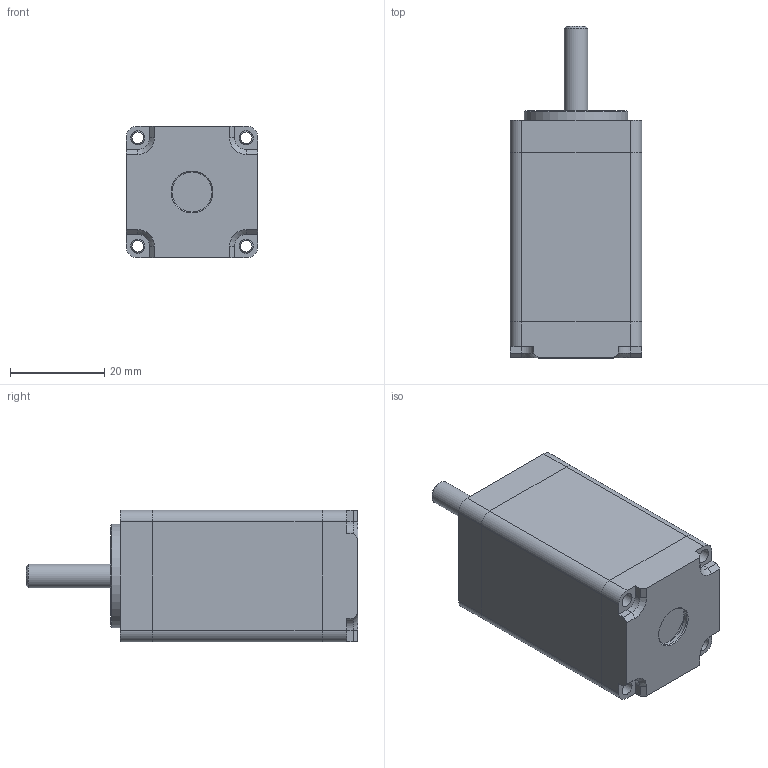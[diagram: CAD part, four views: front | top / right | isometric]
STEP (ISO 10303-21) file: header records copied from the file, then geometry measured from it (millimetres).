
FILE_DESCRIPTION(/* description */ (''),/* implementation_level */ '2;1');
FILE_NAME(/* name */ 'C:\Users\raffaele\Downloads\Projects\E&D\ipt-to-step-conversion\SLDPRT to STP\28SH51.stp',/* time_stamp */ '2021-04-07T17:16:15+02:00',/* author */ ('raffaele'),/* organization */ (''),/* preprocessor_version */ 'ST-DEVELOPER v18.1',/* originating_system */ 'Autodesk Inventor 2021',/* authorisation */ '');
FILE_SCHEMA (('AUTOMOTIVE_DESIGN { 1 0 10303 214 3 1 1 }'));
Length unit declared in the file: inch
Products named in the file (1): 28SH51
Bounding box: 28 x 70.45 x 28 mm (x, y, z)
Surface area: 8349.8 mm2 (no closed solid volume)
Topology: 0 solids, 7 shells, 84 faces, 215 edges, 139 vertices
Faces by surface type: plane 40, cylinder 32, cone 12
Full cylindrical faces by diameter (mm): 2.5 x4, 3 x4, 5 x1, 8.5 x1, 10 x1, 10.5 x1, 13 x1, 22 x1, 23 x1, 25.5 x1
Entity records: 2687 total; most frequent: DIRECTION 464, CARTESIAN_POINT 439, ORIENTED_EDGE 382, EDGE_CURVE 215, AXIS2_PLACEMENT_3D 164, VERTEX_POINT 139, LINE 136, VECTOR 136
